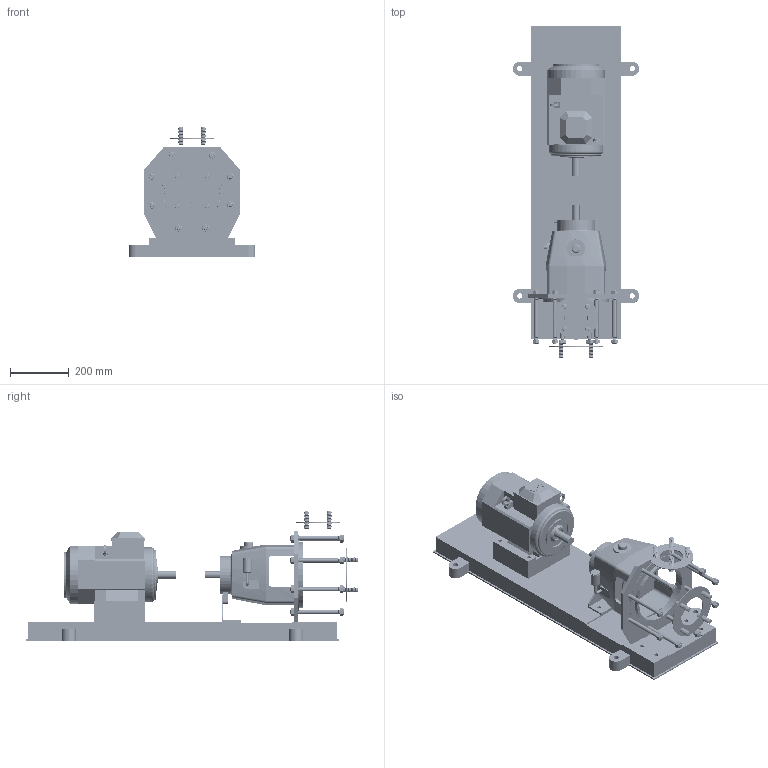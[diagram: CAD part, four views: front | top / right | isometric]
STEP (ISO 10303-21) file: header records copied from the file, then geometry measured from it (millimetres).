
FILE_DESCRIPTION((''),'2;1');
FILE_NAME('KSI 40-200--100 frame.stp','2010-08-04T14:06:52',(''),(''),'AutoCAD STEP 2000i','AutoCAD 2000i',', , ');
FILE_SCHEMA(('CONFIG_CONTROL_DESIGN'));
Length unit declared in the file: millimetre
Products named in the file (2): KSI 40-200--100 FRAME A; A2.4974 100 foot
Assembly tree (1 placements, depth 2):
  KSI 40-200--100 FRAME A
    A2.4974 100 foot
Bounding box: 432 x 1134 x 442 mm (x, y, z)
Volume: 36767687.8 mm3; surface area: 2199462.1 mm2
Topology: 40 solids, 40 shells, 6461 faces, 15992 edges, 9649 vertices
Faces by surface type: cone 2440, torus 2250, cylinder 1298, plane 445, bspline 28
Entity records: 197449 total; most frequent: DIRECTION 40032, CARTESIAN_POINT 34697, ORIENTED_EDGE 32147, AXIS2_PLACEMENT_3D 17753, EDGE_CURVE 16147, CIRCLE 11281, VERTEX_POINT 9797, EDGE_LOOP 6639
